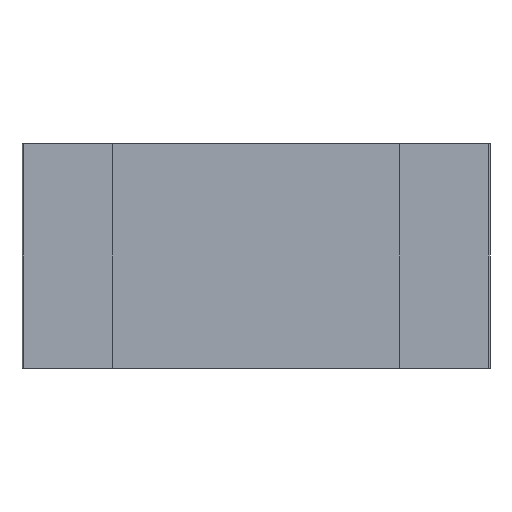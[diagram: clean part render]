
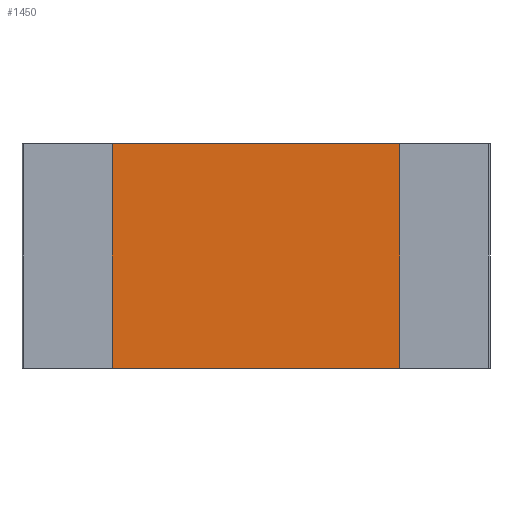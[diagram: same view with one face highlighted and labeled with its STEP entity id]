
A CAD part, front view. The second image highlights one B-rep face of the part: STEP entity #1450.
In plain terms, the highlighted planar face has unit normal (0, -1, 0).
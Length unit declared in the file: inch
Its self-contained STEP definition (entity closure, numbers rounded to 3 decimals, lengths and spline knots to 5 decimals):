
#34=FACE_OUTER_BOUND('',#116,.T.);
#116=EDGE_LOOP('',(#961,#962,#963,#964));
#198=LINE('',#2025,#400);
#203=LINE('',#2035,#405);
#204=LINE('',#2038,#406);
#205=LINE('',#2039,#407);
#400=VECTOR('',#1639,0.257);
#405=VECTOR('',#1648,0.124);
#406=VECTOR('',#1651,0.257);
#407=VECTOR('',#1652,0.124);
#599=VERTEX_POINT('',#2018);
#602=VERTEX_POINT('',#2023);
#605=VERTEX_POINT('',#2033);
#606=VERTEX_POINT('',#2037);
#742=EDGE_CURVE('',#602,#599,#198,.T.);
#747=EDGE_CURVE('',#602,#605,#203,.T.);
#748=EDGE_CURVE('',#606,#605,#204,.T.);
#749=EDGE_CURVE('',#599,#606,#205,.T.);
#961=ORIENTED_EDGE('',*,*,#747,.T.);
#962=ORIENTED_EDGE('',*,*,#748,.F.);
#963=ORIENTED_EDGE('',*,*,#749,.F.);
#964=ORIENTED_EDGE('',*,*,#742,.F.);
#1372=PLANE('',#1545);
#1450=ADVANCED_FACE('',(#34),#1372,.T.);
#1545=AXIS2_PLACEMENT_3D('',#2036,#1649,#1650);
#1639=DIRECTION('',(-1.,0.,0.));
#1648=DIRECTION('',(0.,0.,1.));
#1649=DIRECTION('center_axis',(0.,-1.,0.));
#1650=DIRECTION('ref_axis',(1.,0.,0.));
#1651=DIRECTION('',(1.,0.,0.));
#1652=DIRECTION('',(0.,0.,1.));
#2018=CARTESIAN_POINT('',(-0.1285,0.001,-0.062));
#2023=CARTESIAN_POINT('',(0.1285,0.001,-0.062));
#2025=CARTESIAN_POINT('',(-0.1285,0.001,-0.062));
#2033=CARTESIAN_POINT('',(0.1285,0.001,0.062));
#2035=CARTESIAN_POINT('',(0.1285,0.001,0.));
#2036=CARTESIAN_POINT('Origin',(-0.1285,0.001,0.));
#2037=CARTESIAN_POINT('',(-0.1285,0.001,0.062));
#2038=CARTESIAN_POINT('',(-0.1285,0.001,0.062));
#2039=CARTESIAN_POINT('',(-0.1285,0.001,0.));
